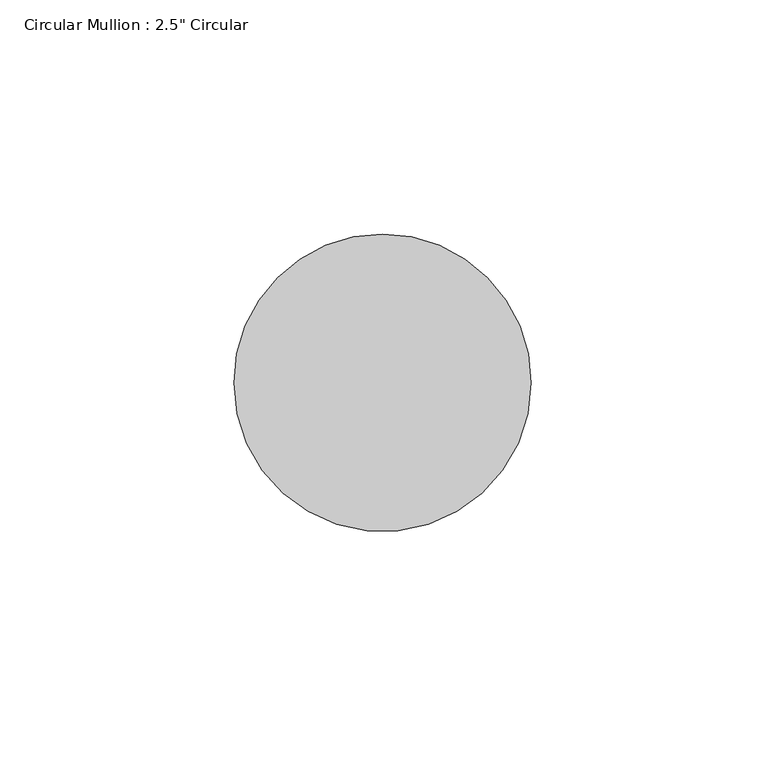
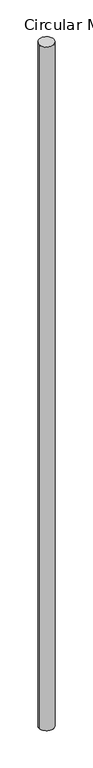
"""IFC4 building model written with IfcOpenShell, lengths in millimetres: member geometry."""

from ifc_helpers import new_model, si_unit, frame, origin, place, context, project, spatial, ellipse_curve, source, transform, mapped, element, save
from ifc_brep_helpers import plane_surface, cylinder_surface, advanced_brep


def member_954ad604(model_context):
    return source(origin(), model_context, "Body", "AdvancedBrep", [
        advanced_brep(
        [(-63.5, 0.0, -1.7016452), (0.0, 0.0, 0.0), (0.0, 0.0, -3086.244148), (-63.5, 0.0, -3084.5184918)],
        [
            (0, 1, ellipse_curve(frame((-31.75, 0.0, -0.8508226), z_axis=(0.026767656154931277, 0.038912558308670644, -0.9988840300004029), x_axis=(0.5661159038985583, 0.8229714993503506, 0.0472302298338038)), 31.7854716, 31.75)),
            (1, 2),
            (2, 3, ellipse_curve(frame((-31.75, 0.0, -3085.3813199), z_axis=(0.02713904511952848, 0.04425355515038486, 0.9986516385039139), x_axis=(-0.5220797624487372, -0.8513153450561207, 0.05191247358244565)), 31.7928683, 31.75)),
            (3, 0),
            (1, 0, ellipse_curve(frame((-31.75, 0.0, -0.8508226), z_axis=(0.026767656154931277, 0.038912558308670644, -0.9988840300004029), x_axis=(0.5661159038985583, 0.8229714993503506, 0.0472302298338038)), 31.7854716, 31.75)),
            (3, 2, ellipse_curve(frame((-31.75, 0.0, -3085.3813199), z_axis=(0.02713904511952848, 0.04425355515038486, 0.9986516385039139), x_axis=(-0.5220797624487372, -0.8513153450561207, 0.05191247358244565)), 31.7928683, 31.75)),
        ],
        [
            cylinder_surface(frame((-31.75, 0.0, 0.0), z_axis=(0.0, 0.0, 1.0), x_axis=(1.0, 0.0, 0.0)), 31.75),
            plane_surface(frame((251.1219576, -172.7449056, 0.0), z_axis=(-0.026767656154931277, -0.038912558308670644, 0.9988840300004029), x_axis=(-0.5661159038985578, -0.822971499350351, -0.04723022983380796))),
            plane_surface(frame((259.8312636, -159.3447659, -3086.244148), z_axis=(-0.02713904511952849, -0.044253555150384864, -0.9986516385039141), x_axis=(-0.5220797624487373, -0.8513153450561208, 0.05191247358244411))),
        ],
        [
            (0, [[1, 2, 3, 4]]),
            (0, [[5, -4, 6, -2]]),
            (1, [[-1, -5]]),
            (2, [[-6, -3]]),
        ],
    ),
    ])


if __name__ == "__main__":
    model = new_model("IFC4")
    model_context = context("Model", 3, world=origin())
    ifc_project = project(units=[si_unit("LENGTHUNIT", "METRE", prefix="MILLI")], contexts=[model_context])
    site = spatial("IfcSite", under=ifc_project)
    building = spatial("IfcBuilding", under=site)
    placement = place(None, origin())
    member_shape = member_954ad604(model_context)
    element("IfcMember", 1, ObjectType="Circular Mullion : 2.5\" Circular", at=placement, inside=building, context=model_context, shape_type="MappedRepresentation", body=[
        mapped(member_shape, transform((0.0, 0.0, 0.0), x_axis=(1.0, 0.0, 0.0), y_axis=(0.0, 1.0, 0.0), z_axis=(0.0, 0.0, 1.0))),
    ])
    save(model, "model.ifc")
